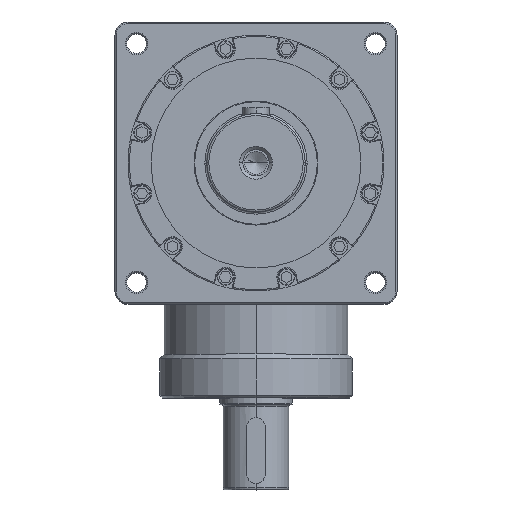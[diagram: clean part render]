
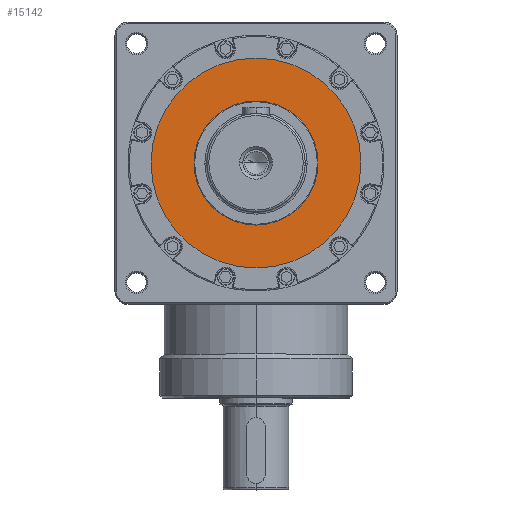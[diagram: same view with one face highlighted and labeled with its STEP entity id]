
A CAD part, top view. The second image highlights one B-rep face of the part: STEP entity #15142.
In plain terms, the highlighted planar face has unit normal (0, 0, 1).
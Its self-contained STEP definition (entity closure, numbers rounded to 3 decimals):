
#406 = ORIENTED_EDGE ( 'NONE', *, *, #6212, .T. ) ;
#1379 = DIRECTION ( 'NONE',  ( 0., 0., 1. ) ) ;
#1491 = DIRECTION ( 'NONE',  ( 0., 0., 1. ) ) ;
#1609 = ORIENTED_EDGE ( 'NONE', *, *, #8837, .F. ) ;
#3908 = VERTEX_POINT ( 'NONE', #21423 ) ;
#5404 = VERTEX_POINT ( 'NONE', #6878 ) ;
#6076 = DIRECTION ( 'NONE',  ( 0., 0., 1. ) ) ;
#6212 = EDGE_CURVE ( 'NONE', #7793, #5404, #8675, .T. ) ;
#6476 = DIRECTION ( 'NONE',  ( 1., 0., 0. ) ) ;
#6587 = DIRECTION ( 'NONE',  ( 1., 0., 0. ) ) ;
#6715 = PLANE ( 'NONE',  #20779 ) ;
#6878 = CARTESIAN_POINT ( 'NONE',  ( -80., 0., 99. ) ) ;
#7793 = VERTEX_POINT ( 'NONE', #12611 ) ;
#8377 = CARTESIAN_POINT ( 'NONE',  ( 0., 0., 99. ) ) ;
#8500 = AXIS2_PLACEMENT_3D ( 'NONE', #13021, #6076, #9387 ) ;
#8675 = CIRCLE ( 'NONE', #19978, 80. ) ;
#8693 = CARTESIAN_POINT ( 'NONE',  ( 0., 0., 99. ) ) ;
#8837 = EDGE_CURVE ( 'NONE', #11305, #3908, #16549, .T. ) ;
#9387 = DIRECTION ( 'NONE',  ( 1., 0., 0. ) ) ;
#9919 = FACE_OUTER_BOUND ( 'NONE', #19287, .T. ) ;
#10076 = ORIENTED_EDGE ( 'NONE', *, *, #18378, .F. ) ;
#10681 = AXIS2_PLACEMENT_3D ( 'NONE', #13540, #1491, #6476 ) ;
#11305 = VERTEX_POINT ( 'NONE', #17337 ) ;
#11391 = CIRCLE ( 'NONE', #10681, 47.25 ) ;
#11568 = DIRECTION ( 'NONE',  ( 1., 0., 0. ) ) ;
#12211 = EDGE_CURVE ( 'NONE', #5404, #7793, #19437, .T. ) ;
#12611 = CARTESIAN_POINT ( 'NONE',  ( 80., 0., 99. ) ) ;
#13021 = CARTESIAN_POINT ( 'NONE',  ( 0., 0., 99. ) ) ;
#13540 = CARTESIAN_POINT ( 'NONE',  ( 0., 0., 99. ) ) ;
#13839 = ORIENTED_EDGE ( 'NONE', *, *, #12211, .T. ) ;
#14417 = AXIS2_PLACEMENT_3D ( 'NONE', #8377, #15097, #14658 ) ;
#14658 = DIRECTION ( 'NONE',  ( 1., 0., 0. ) ) ;
#15097 = DIRECTION ( 'NONE',  ( 0., 0., 1. ) ) ;
#15142 = ADVANCED_FACE ( 'NONE', ( #17080, #9919 ), #6715, .T. ) ;
#15207 = DIRECTION ( 'NONE',  ( 0., 0., 1. ) ) ;
#16549 = CIRCLE ( 'NONE', #14417, 47.25 ) ;
#17080 = FACE_BOUND ( 'NONE', #20546, .T. ) ;
#17337 = CARTESIAN_POINT ( 'NONE',  ( 47.25, 0., 99. ) ) ;
#18193 = CARTESIAN_POINT ( 'NONE',  ( 0., 0., 99. ) ) ;
#18378 = EDGE_CURVE ( 'NONE', #3908, #11305, #11391, .T. ) ;
#19287 = EDGE_LOOP ( 'NONE', ( #406, #13839 ) ) ;
#19437 = CIRCLE ( 'NONE', #8500, 80. ) ;
#19978 = AXIS2_PLACEMENT_3D ( 'NONE', #18193, #1379, #6587 ) ;
#20546 = EDGE_LOOP ( 'NONE', ( #10076, #1609 ) ) ;
#20779 = AXIS2_PLACEMENT_3D ( 'NONE', #8693, #15207, #11568 ) ;
#21423 = CARTESIAN_POINT ( 'NONE',  ( -47.25, 0., 99. ) ) ;
